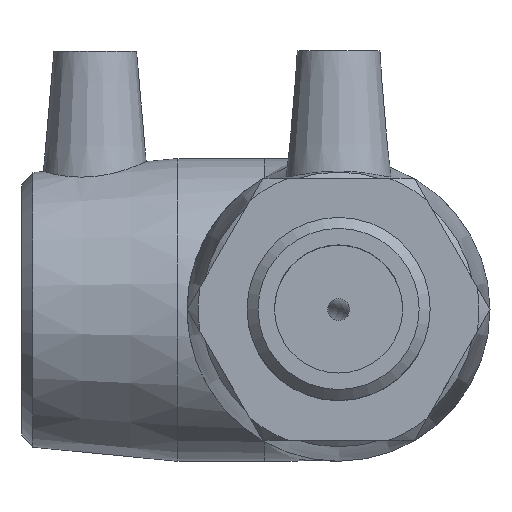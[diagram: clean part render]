
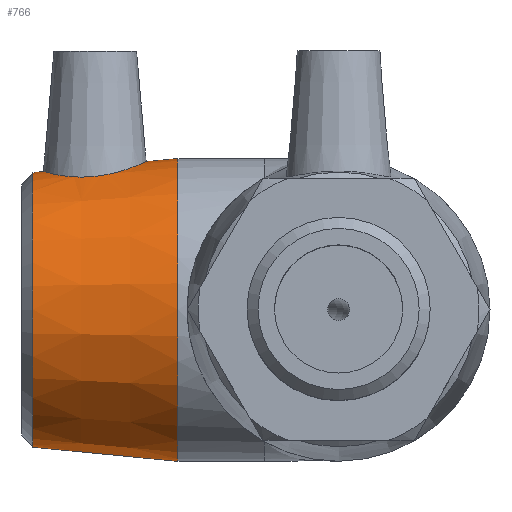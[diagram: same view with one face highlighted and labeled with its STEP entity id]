
A CAD part, top view. The second image highlights one B-rep face of the part: STEP entity #766.
In plain terms, the highlighted conical face has half-angle 5.544 degrees and reference radius 26.125 mm.
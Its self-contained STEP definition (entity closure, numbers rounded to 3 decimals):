
#78=B_SPLINE_CURVE_WITH_KNOTS('',3,(#1229,#1230,#1231,#1232,#1233,#1234,
#1235,#1236,#1237,#1238,#1239,#1240,#1241,#1242,#1243,#1244,#1245,#1246,
#1247,#1248,#1249,#1250,#1251,#1252,#1253,#1254,#1255,#1256,#1257,#1258,
#1259,#1260,#1261,#1262),.UNSPECIFIED.,.T.,.F.,(4,2,2,2,2,2,2,2,2,2,2,2,
2,2,2,2,4),(0.,0.347,0.693,1.043,1.392,
1.741,2.091,2.437,2.784,3.159,
3.533,3.899,4.264,4.63,4.996,
5.37,5.745),.UNSPECIFIED.);
#82=CONICAL_SURFACE('',#839,26.125,5.544);
#133=FACE_BOUND('',#243,.T.);
#134=FACE_BOUND('',#244,.T.);
#175=FACE_OUTER_BOUND('',#242,.T.);
#242=EDGE_LOOP('',(#568));
#243=EDGE_LOOP('',(#569));
#244=EDGE_LOOP('',(#570));
#338=CIRCLE('',#838,24.943);
#339=CIRCLE('',#840,27.5);
#389=VERTEX_POINT('',#1223);
#390=VERTEX_POINT('',#1226);
#391=VERTEX_POINT('',#1228);
#466=EDGE_CURVE('',#389,#389,#338,.T.);
#467=EDGE_CURVE('',#390,#390,#339,.T.);
#468=EDGE_CURVE('',#391,#391,#78,.T.);
#568=ORIENTED_EDGE('',*,*,#467,.F.);
#569=ORIENTED_EDGE('',*,*,#468,.T.);
#570=ORIENTED_EDGE('',*,*,#466,.F.);
#766=ADVANCED_FACE('',(#175,#133,#134),#82,.T.);
#838=AXIS2_PLACEMENT_3D('',#1224,#968,#969);
#839=AXIS2_PLACEMENT_3D('',#1225,#970,#971);
#840=AXIS2_PLACEMENT_3D('',#1227,#972,#973);
#968=DIRECTION('center_axis',(-1.,0.,0.));
#969=DIRECTION('ref_axis',(0.,-1.,0.));
#970=DIRECTION('center_axis',(1.,0.,0.));
#971=DIRECTION('ref_axis',(0.,1.,0.));
#972=DIRECTION('center_axis',(1.,0.,0.));
#973=DIRECTION('ref_axis',(0.,0.,-1.));
#1223=CARTESIAN_POINT('',(-55.509,24.943,0.));
#1224=CARTESIAN_POINT('Origin',(-55.509,0.,0.));
#1225=CARTESIAN_POINT('Origin',(-43.333,0.,
0.));
#1226=CARTESIAN_POINT('',(-29.167,27.5,0.));
#1227=CARTESIAN_POINT('Origin',(-29.167,0.,
0.));
#1228=CARTESIAN_POINT('',(-44.611,24.209,9.485));
#1229=CARTESIAN_POINT('Ctrl Pts',(-44.611,24.209,9.485));
#1230=CARTESIAN_POINT('Ctrl Pts',(-45.761,24.105,9.444));
#1231=CARTESIAN_POINT('Ctrl Pts',(-46.98,24.089,9.17));
#1232=CARTESIAN_POINT('Ctrl Pts',(-49.205,24.223,8.158));
#1233=CARTESIAN_POINT('Ctrl Pts',(-50.211,24.367,7.42));
#1234=CARTESIAN_POINT('Ctrl Pts',(-51.794,24.657,5.75));
#1235=CARTESIAN_POINT('Ctrl Pts',(-52.48,24.823,4.699));
#1236=CARTESIAN_POINT('Ctrl Pts',(-53.39,25.06,2.407));
#1237=CARTESIAN_POINT('Ctrl Pts',(-53.614,25.127,1.165));
#1238=CARTESIAN_POINT('Ctrl Pts',(-53.614,25.127,-1.165));
#1239=CARTESIAN_POINT('Ctrl Pts',(-53.39,25.06,-2.407));
#1240=CARTESIAN_POINT('Ctrl Pts',(-52.48,24.823,-4.699));
#1241=CARTESIAN_POINT('Ctrl Pts',(-51.794,24.657,-5.75));
#1242=CARTESIAN_POINT('Ctrl Pts',(-50.211,24.367,-7.42));
#1243=CARTESIAN_POINT('Ctrl Pts',(-49.205,24.223,-8.158));
#1244=CARTESIAN_POINT('Ctrl Pts',(-46.98,24.089,-9.17));
#1245=CARTESIAN_POINT('Ctrl Pts',(-45.761,24.105,-9.444));
#1246=CARTESIAN_POINT('Ctrl Pts',(-43.368,24.322,-9.529));
#1247=CARTESIAN_POINT('Ctrl Pts',(-42.058,24.549,-9.308));
#1248=CARTESIAN_POINT('Ctrl Pts',(-39.667,25.136,-8.35));
#1249=CARTESIAN_POINT('Ctrl Pts',(-38.585,25.489,-7.613));
#1250=CARTESIAN_POINT('Ctrl Pts',(-36.896,26.101,-5.921));
#1251=CARTESIAN_POINT('Ctrl Pts',(-36.166,26.404,-4.858));
#1252=CARTESIAN_POINT('Ctrl Pts',(-35.19,26.825,-2.507));
#1253=CARTESIAN_POINT('Ctrl Pts',(-34.945,26.939,-1.218));
#1254=CARTESIAN_POINT('Ctrl Pts',(-34.945,26.939,1.218));
#1255=CARTESIAN_POINT('Ctrl Pts',(-35.19,26.825,2.507));
#1256=CARTESIAN_POINT('Ctrl Pts',(-36.166,26.404,4.858));
#1257=CARTESIAN_POINT('Ctrl Pts',(-36.896,26.101,5.921));
#1258=CARTESIAN_POINT('Ctrl Pts',(-38.585,25.489,7.613));
#1259=CARTESIAN_POINT('Ctrl Pts',(-39.667,25.136,8.35));
#1260=CARTESIAN_POINT('Ctrl Pts',(-42.058,24.549,9.308));
#1261=CARTESIAN_POINT('Ctrl Pts',(-43.368,24.322,9.529));
#1262=CARTESIAN_POINT('Ctrl Pts',(-44.611,24.209,9.485));
